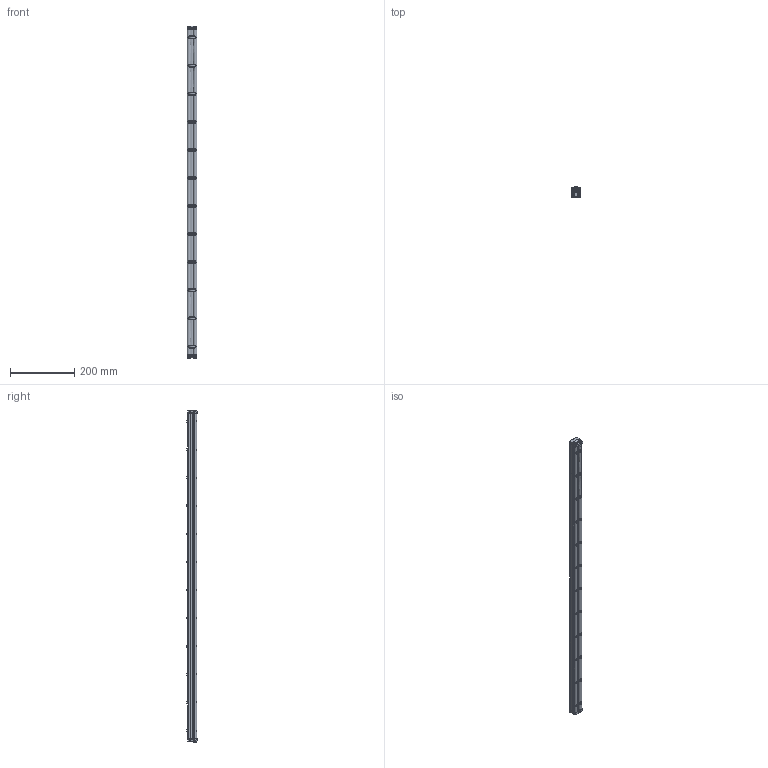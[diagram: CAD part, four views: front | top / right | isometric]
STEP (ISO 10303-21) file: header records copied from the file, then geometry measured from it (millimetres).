
FILE_DESCRIPTION((''),'2;1');
FILE_NAME('206523-40_ASM','2023-02-27T',('jenni.wallner'),(''),'PRO/ENGINEER BY PARAMETRIC TECHNOLOGY CORPORATION, 2012420','PRO/ENGINEER BY PARAMETRIC TECHNOLOGY CORPORATION, 2012420','');
FILE_SCHEMA(('CONFIG_CONTROL_DESIGN'));
Length unit declared in the file: inch
Products named in the file (7): 205977_205978_205979_205978; 9506XXM_950616M; 240826; 2410WW_241040; 2436WW_243640; ASM0001_ASM; 206523-40_ASM
Assembly tree (21 placements, depth 3):
  206523-40_ASM
    ASM0001_ASM
      205977_205978_205979_205978  x2
      9506XXM_950616M  x4
      240826  x12
      2410WW_241040
      2436WW_243640
Bounding box: 30.89 x 33.01 x 1036.55 mm (x, y, z)
Volume: 496046.4 mm3; surface area: 294240.5 mm2
Topology: 20 solids, 20 shells, 758 faces, 2146 edges, 1412 vertices
Faces by surface type: cylinder 344, plane 250, cone 116, torus 48
Entity records: 17917 total; most frequent: CARTESIAN_POINT 4396, ORIENTED_EDGE 2946, DIRECTION 2841, EDGE_CURVE 1473, AXIS2_PLACEMENT_3D 1077, VERTEX_POINT 982, VECTOR 687, LINE 687
